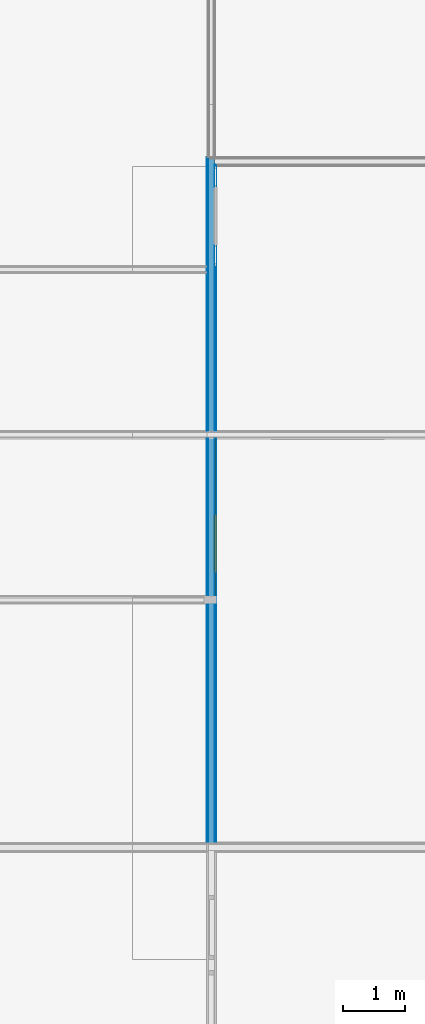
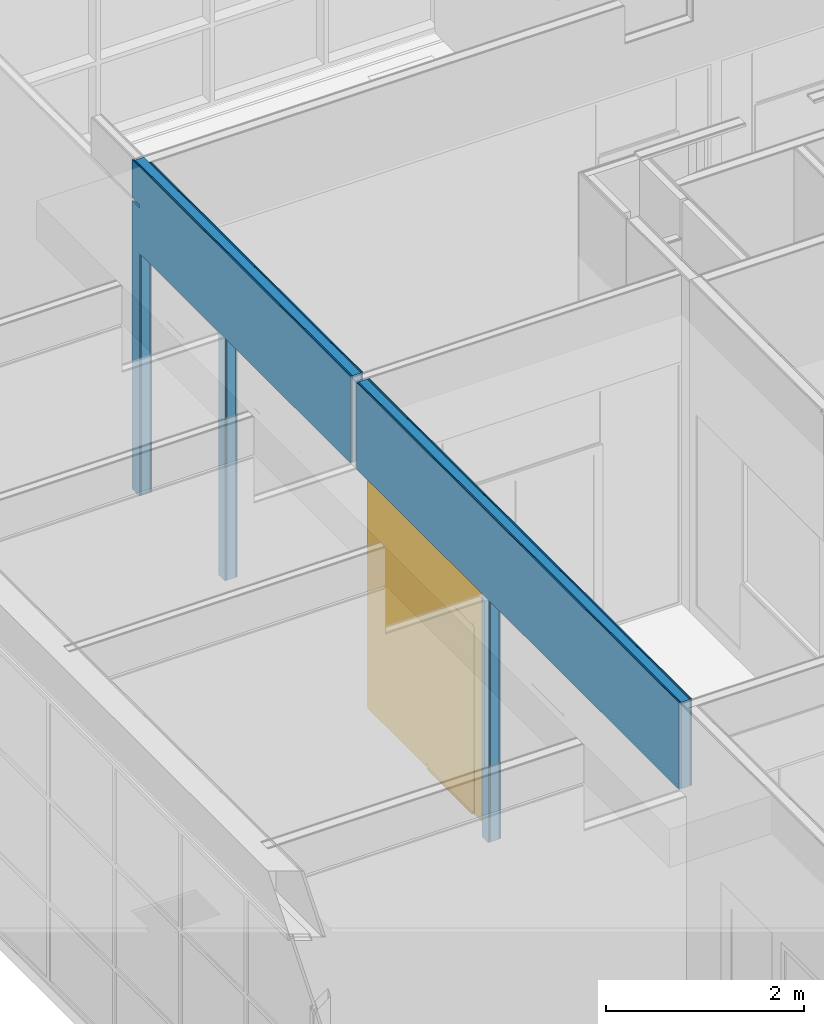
# One storey, part 37 of 109: 5 building element parts, 1 door, 4 openings, 1 element without a shape of its own.
"""IFC2X3 building model written with IfcOpenShell, lengths in millimetres."""

from ifc_helpers import new_model, entity, si_unit, converted_unit, derived_unit, money_unit, direction, frame, origin_with_axes, place, context, subcontext, project, spatial, open_shell, faceted_brep, surface_model, material, type_object, element, fill, aggregate, save


model = new_model("IFC2X3")

# Units and contexts
model_context = context("Model", 3, precision=0.01, world=origin_with_axes(), true_north=direction((0.0, 1.0)))
body_context = subcontext(model_context, "Body", "Model", "MODEL_VIEW")
ifc_project = project(units=[si_unit("LENGTHUNIT", "METRE", prefix="MILLI"), si_unit("AREAUNIT", "SQUARE_METRE"), si_unit("VOLUMEUNIT", "CUBIC_METRE"), converted_unit("PLANEANGLEUNIT", "DEGREE", entity("IfcPlaneAngleMeasure", 0.0174532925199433), si_unit("PLANEANGLEUNIT", "RADIAN"), dimensions=[0, 0, 0, 0, 0, 0, 0]), money_unit("EUR"), converted_unit("TIMEUNIT", "Year", entity("IfcTimeMeasure", 31557600.0), si_unit("TIMEUNIT", "SECOND"), dimensions=[0, 0, 1, 0, 0, 0, 0]), si_unit("MASSUNIT", "GRAM", prefix="KILO"), si_unit("THERMODYNAMICTEMPERATUREUNIT", "DEGREE_CELSIUS"), si_unit("LUMINOUSINTENSITYUNIT", "LUMEN"), si_unit("ENERGYUNIT", "JOULE", prefix="MEGA"), derived_unit("THERMALCONDUCTANCEUNIT", [(si_unit("POWERUNIT", "WATT"), 1), (si_unit("LENGTHUNIT", "METRE"), -1), (si_unit("THERMODYNAMICTEMPERATUREUNIT", "KELVIN"), -1)]), derived_unit("SPECIFICHEATCAPACITYUNIT", [(si_unit("ENERGYUNIT", "JOULE"), 1), (si_unit("MASSUNIT", "GRAM", prefix="KILO"), -1), (si_unit("THERMODYNAMICTEMPERATUREUNIT", "KELVIN"), -1)]), derived_unit("MASSDENSITYUNIT", [(si_unit("MASSUNIT", "GRAM", prefix="KILO"), 1), (si_unit("VOLUMEUNIT", "CUBIC_METRE"), -1)])], contexts=[model_context])

# Site, building, storey
site_placement = place(None, origin_with_axes())
site = spatial("IfcSite", under=ifc_project, at=site_placement, Name="<site naam>", CompositionType="ELEMENT")
building_placement = place(site_placement, origin_with_axes())
building = spatial("IfcBuilding", under=site, at=building_placement, Name="<Naam gebouw>", CompositionType="ELEMENT")
storey_placement = place(building_placement, origin_with_axes())
storey = spatial("IfcBuildingStorey", under=building, at=storey_placement, Name="00 Begane grond", CompositionType="ELEMENT", Elevation=0.0)

# Door
door_style = type_object("IfcDoorStyle", Name="D1 bl zl2 27", ConstructionType="NOTDEFINED", OperationType="USERDEFINED", ParameterTakesPrecedence=False, Sizeable=False)
wall_placement = place(storey_placement, frame((-3999.999999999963, 8075.000000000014, 0.0), z_axis=(0.0, 0.0, 1.0), x_axis=(0.0, 1.0, 0.0)))
opening_1_placement = place(wall_placement, frame((5258.333333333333, 0.0, 0.0), z_axis=(0.0, 0.0, 1.0), x_axis=(1.0, 0.0, 0.0)))
door_placement = place(opening_1_placement, frame((1270.833333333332, 0.0, 0.0), z_axis=(0.0, 0.0, 1.0), x_axis=(-1.0, 0.0, 0.0)))
door = element("IfcDoor", 1, at=door_placement, inside=storey, type_object=door_style, Name="22_BI-F-02 sp_305", ObjectType="DOOR", OverallHeight=3000.0, OverallWidth=2541.67, context=body_context, shape_type="SurfaceModel", body=[
    faceted_brep([(1224.666666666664, 35.00000000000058, 0.0), (1224.666666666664, 35.00000000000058, 12.0), (1241.666666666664, 35.00000000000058, 12.0), (1241.666666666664, 35.00000000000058, 0.0), (2158.666666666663, 35.00000000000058, 0.0), (2158.666666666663, 35.00000000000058, 12.0), (2141.666666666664, 35.00000000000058, 12.0), (2141.666666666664, 55.0000000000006, 12.0), (1241.666666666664, 55.0000000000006, 12.0), (1241.666666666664, 55.0000000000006, 0.0), (2141.666666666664, 55.0000000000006, 0.0), (2141.666666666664, 35.00000000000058, 0.0)], [[[0, 1, 2, 3]], [[4, 5, 1, 0]], [[1, 5, 6, 7, 8, 2]], [[3, 2, 8, 9]], [[0, 3, 9, 10, 11, 4]], [[11, 6, 5, 4]], [[10, 7, 6, 11]], [[9, 8, 7, 10]]]),
    faceted_brep([(0.0, 75.00000000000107, 0.0), (33.00000000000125, 75.00000000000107, 0.0), (33.00000000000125, 55.00000000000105, 0.0), (0.0, 55.00000000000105, 0.0), (0.0, 75.00000000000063, 2967.0), (33.00000000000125, 75.00000000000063, 2967.0), (33.00000000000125, 75.00000000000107, 33.0), (33.00000000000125, 55.00000000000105, 33.0), (33.00000000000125, 55.0000000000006, 2967.0), (0.0, 55.0000000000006, 2967.0)], [[[0, 1, 2, 3]], [[0, 4, 5, 6, 1]], [[1, 6, 7, 2]], [[3, 2, 7, 8, 9]], [[4, 0, 3, 9]], [[5, 4, 9, 8]], [[6, 5, 8, 7]]]),
    faceted_brep([(1224.666666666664, 55.0000000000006, 0.0), (1224.666666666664, 55.0000000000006, 2317.0), (1241.666666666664, 55.0000000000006, 2317.0), (1241.666666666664, 55.0000000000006, 2333.0), (1241.666666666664, 55.0000000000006, 2967.0), (1199.666666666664, 55.0000000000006, 2967.0), (1199.666666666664, 55.0000000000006, 32.99999999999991), (1199.666666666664, 55.0000000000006, 0.0), (1224.666666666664, 75.00000000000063, 0.0), (1224.666666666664, 75.00000000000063, 2317.0), (1241.666666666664, 75.00000000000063, 2317.0), (1241.666666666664, 75.00000000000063, 2333.0), (1241.666666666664, 75.00000000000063, 2967.0), (1199.666666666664, 75.00000000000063, 2967.0), (1199.666666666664, 75.00000000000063, 32.99999999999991), (1199.666666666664, 75.00000000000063, 0.0)], [[[0, 1, 2, 3, 4, 5, 6, 7]], [[1, 0, 8, 9]], [[10, 2, 1, 9]], [[2, 10, 11, 3]], [[12, 4, 3, 11]], [[13, 5, 4, 12]], [[14, 6, 5, 13]], [[15, 7, 6, 14]], [[8, 0, 7, 15]], [[9, 8, 15, 14, 13, 12, 11, 10]]]),
    faceted_brep([(33.00000000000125, 75.00000000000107, 33.0), (33.00000000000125, 75.00000000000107, 0.0), (33.00000000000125, 55.00000000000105, 0.0), (33.00000000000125, 55.00000000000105, 33.0), (1199.666666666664, 75.00000000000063, 33.0), (1199.666666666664, 75.00000000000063, 0.0), (1199.666666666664, 55.0000000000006, 0.0), (1199.666666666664, 55.0000000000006, 33.0)], [[[0, 1, 2, 3]], [[0, 4, 5, 1]], [[1, 5, 6, 2]], [[3, 2, 6, 7]], [[4, 0, 3, 7]], [[5, 4, 7, 6]]]),
    faceted_brep([(2541.666666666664, 75.00000000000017, 0.0), (2541.666666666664, 75.00000000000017, 2967.0), (2541.666666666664, 55.00000000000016, 2967.0), (2541.666666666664, 55.0000000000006, 0.0), (2508.666666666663, 75.00000000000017, 0.0), (2508.666666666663, 75.00000000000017, 33.0), (2508.666666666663, 75.00000000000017, 2967.0), (2508.666666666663, 55.00000000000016, 2967.0), (2508.666666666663, 55.0000000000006, 33.0), (2508.666666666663, 55.0000000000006, 0.0)], [[[0, 1, 2, 3]], [[0, 4, 5, 6, 1]], [[1, 6, 7, 2]], [[3, 2, 7, 8, 9]], [[4, 0, 3, 9]], [[5, 4, 9, 8]], [[6, 5, 8, 7]]]),
    faceted_brep([(2158.666666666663, 55.00000000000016, 2317.0), (2158.666666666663, 55.0000000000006, 0.0), (2183.666666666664, 55.0000000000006, 0.0), (2183.666666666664, 55.0000000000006, 32.99999999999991), (2183.666666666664, 55.00000000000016, 2967.0), (2141.666666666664, 55.00000000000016, 2967.0), (2141.666666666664, 55.00000000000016, 2333.0), (2141.666666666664, 55.00000000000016, 2317.0), (2158.666666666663, 75.00000000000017, 2317.0), (2158.666666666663, 75.00000000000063, 0.0), (2183.666666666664, 75.00000000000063, 0.0), (2183.666666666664, 75.00000000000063, 32.99999999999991), (2183.666666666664, 75.00000000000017, 2967.0), (2141.666666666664, 75.00000000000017, 2967.0), (2141.666666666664, 75.00000000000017, 2333.0), (2141.666666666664, 75.00000000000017, 2317.0)], [[[0, 1, 2, 3, 4, 5, 6, 7]], [[1, 0, 8, 9]], [[1, 9, 10, 2]], [[11, 3, 2, 10]], [[12, 4, 3, 11]], [[13, 5, 4, 12]], [[14, 6, 5, 13]], [[15, 7, 6, 14]], [[0, 7, 15, 8]], [[8, 15, 14, 13, 12, 11, 10, 9]]]),
    faceted_brep([(2183.666666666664, 75.00000000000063, 33.0), (2183.666666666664, 75.00000000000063, 0.0), (2183.666666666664, 55.0000000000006, 0.0), (2183.666666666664, 55.0000000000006, 33.0), (2508.666666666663, 75.00000000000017, 33.0), (2508.666666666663, 75.00000000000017, 0.0), (2508.666666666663, 55.0000000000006, 0.0), (2508.666666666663, 55.0000000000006, 33.0)], [[[0, 1, 2, 3]], [[0, 4, 5, 1]], [[1, 5, 6, 2]], [[3, 2, 6, 7]], [[4, 0, 3, 7]], [[5, 4, 7, 6]]]),
    faceted_brep([(0.0, 75.00000000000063, 3000.0), (0.0, 75.00000000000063, 2967.0), (0.0, 55.0000000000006, 2967.0), (0.0, 55.0000000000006, 3000.0), (2541.666666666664, 75.00000000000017, 3000.0), (2541.666666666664, 75.00000000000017, 2967.0), (2508.666666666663, 75.00000000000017, 2967.0), (2183.666666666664, 75.00000000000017, 2967.0), (2141.666666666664, 75.00000000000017, 2967.0), (1241.666666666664, 75.00000000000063, 2967.0), (1199.666666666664, 75.00000000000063, 2967.0), (33.00000000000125, 75.00000000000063, 2967.0), (33.00000000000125, 55.0000000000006, 2967.0), (1199.666666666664, 55.0000000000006, 2967.0), (1241.666666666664, 55.0000000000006, 2967.0), (2141.666666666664, 55.00000000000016, 2967.0), (2183.666666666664, 55.00000000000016, 2967.0), (2508.666666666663, 55.00000000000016, 2967.0), (2541.666666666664, 55.00000000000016, 2967.0), (2541.666666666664, 55.00000000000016, 3000.0)], [[[0, 1, 2, 3]], [[0, 4, 5, 6, 7, 8, 9, 10, 11, 1]], [[1, 11, 12, 2]], [[3, 2, 12, 13, 14, 15, 16, 17, 18, 19]], [[4, 0, 3, 19]], [[5, 4, 19, 18]], [[6, 5, 18, 17]], [[7, 6, 17, 16]], [[8, 7, 16, 15]], [[9, 8, 15, 14]], [[10, 9, 14, 13]], [[11, 10, 13, 12]]]),
    faceted_brep([(1241.666666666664, 55.0000000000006, 2317.0), (2141.666666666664, 55.00000000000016, 2317.0), (2141.666666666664, 55.00000000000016, 2333.0), (1241.666666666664, 55.0000000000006, 2333.0), (2141.666666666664, 75.00000000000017, 2317.0), (1241.666666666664, 75.00000000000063, 2317.0), (2141.666666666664, 75.00000000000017, 2333.0), (1241.666666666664, 75.00000000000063, 2333.0)], [[[0, 1, 2, 3]], [[4, 1, 0, 5]], [[1, 4, 6, 2]], [[7, 3, 2, 6]], [[5, 0, 3, 7]], [[4, 5, 7, 6]]]),
    faceted_brep([(2158.666666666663, 93.00000000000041, 0.0), (2158.666666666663, 53.00000000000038, 0.0), (1224.666666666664, 53.00000000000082, 0.0), (1224.666666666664, 93.00000000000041, 0.0), (2158.666666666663, 92.99999999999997, 2317.0), (2158.666666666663, 53.00000000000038, 2317.0), (1224.666666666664, 53.00000000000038, 2317.0), (1224.666666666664, 93.00000000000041, 2317.0)], [[[0, 1, 2, 3]], [[4, 5, 1, 0]], [[1, 5, 6, 2]], [[3, 2, 6, 7]], [[0, 3, 7, 4]], [[7, 6, 5, 4]]]),
    surface_model("IfcShellBasedSurfaceModel", [(1241.666666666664, 49.00000000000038, 2333.0), (2141.666666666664, 49.00000000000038, 2333.0), (2141.666666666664, 49.00000000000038, 2967.0), (1241.666666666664, 49.00000000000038, 2967.0)], [open_shell([[[0, 1, 2, 3]]])]),
    surface_model("IfcShellBasedSurfaceModel", [(1241.666666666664, 61.00000000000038, 2333.0), (1241.666666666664, 61.00000000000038, 2967.0), (2141.666666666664, 61.00000000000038, 2967.0), (2141.666666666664, 61.00000000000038, 2333.0)], [open_shell([[[0, 1, 2, 3]]])]),
    surface_model("IfcShellBasedSurfaceModel", [(33.00000000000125, 49.00000000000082, 33.0), (1199.666666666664, 49.00000000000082, 33.0), (1199.666666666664, 49.00000000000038, 2967.0), (33.00000000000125, 49.00000000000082, 2967.0)], [open_shell([[[0, 1, 2, 3]]])]),
    surface_model("IfcShellBasedSurfaceModel", [(33.00000000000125, 61.00000000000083, 33.0), (33.00000000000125, 61.00000000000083, 2967.0), (1199.666666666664, 61.00000000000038, 2967.0), (1199.666666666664, 61.00000000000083, 33.0)], [open_shell([[[0, 1, 2, 3]]])]),
    surface_model("IfcShellBasedSurfaceModel", [(2183.666666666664, 49.00000000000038, 33.0), (2508.666666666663, 49.00000000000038, 33.0), (2508.666666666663, 49.00000000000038, 2967.0), (2183.666666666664, 49.00000000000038, 2967.0)], [open_shell([[[0, 1, 2, 3]]])]),
    surface_model("IfcShellBasedSurfaceModel", [(2183.666666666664, 61.00000000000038, 33.0), (2183.666666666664, 61.00000000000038, 2967.0), (2508.666666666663, 61.00000000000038, 2967.0), (2508.666666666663, 61.00000000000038, 33.0)], [open_shell([[[0, 1, 2, 3]]])]),
])

# Wall, opening
wall_type = type_object("IfcWallType", Name="MS-01 GF 150 ECO DGS/2.100.2.A 150", PredefinedType="NOTDEFINED")
wall = element("IfcWall", 2, at=wall_placement, inside=storey, type_object=wall_type, Name="22_Binnenwand_MS-01")
opening_1 = element("IfcOpeningElement", 3, at=opening_1_placement, cuts=wall, Name="22_BI-F-02 sp_305", context=body_context, shape_type="Brep", body=[
    faceted_brep([(1270.833333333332, 76.00000000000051, 3000.0), (1270.833333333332, 76.00000000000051, 0.0), (-1270.833333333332, 76.00000000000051, 0.0), (-1270.833333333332, 76.00000000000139, 3000.0), (1270.833333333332, -76.00000000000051, 3000.0), (1270.833333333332, -76.00000000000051, 0.0), (-1270.833333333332, -76.00000000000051, 0.0), (-1270.833333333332, -75.99999999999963, 3000.0)], [[[0, 1, 2, 3]], [[4, 5, 1, 0]], [[5, 6, 2, 1]], [[6, 7, 3, 2]], [[7, 4, 0, 3]], [[6, 5, 4, 7]]]),
])

fill(opening_1, door)

# Opening
opening_2_placement = place(wall_placement, frame((7925.000000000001, 0.0, 0.0), z_axis=(0.0, 0.0, 1.0), x_axis=(1.0, 0.0, 0.0)))
element("IfcOpeningElement", 4, at=opening_2_placement, cuts=wall, Name="22_BI-F-02_305", context=body_context, shape_type="Brep", body=[
    faceted_brep([(1270.833333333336, 76.00000000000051, 3000.0), (1270.833333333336, 76.00000000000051, 0.0), (-1270.833333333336, 76.00000000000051, 0.0), (-1270.833333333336, 76.00000000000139, 3000.0), (1270.833333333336, -76.00000000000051, 3000.0), (1270.833333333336, -76.00000000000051, 0.0), (-1270.833333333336, -76.00000000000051, 0.0), (-1270.833333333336, -75.99999999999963, 3000.0)], [[[0, 1, 2, 3]], [[4, 5, 1, 0]], [[5, 6, 2, 1]], [[6, 7, 3, 2]], [[7, 4, 0, 3]], [[6, 5, 4, 7]]]),
])

opening_3_placement = place(wall_placement, frame((1931.25, 0.0, 0.0), z_axis=(0.0, 0.0, 1.0), x_axis=(1.0, 0.0, 0.0)))
element("IfcOpeningElement", 5, at=opening_3_placement, cuts=wall, Name="22_BI-F-01_305", context=body_context, shape_type="Brep", body=[
    faceted_brep([(1931.25, 76.00000000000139, 3000.0), (1931.25, 76.00000000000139, 0.0), (-1931.25, 76.00000000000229, 0.0), (-1931.25, 76.00000000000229, 3000.0), (1931.25, -76.00000000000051, 3000.0), (1931.25, -76.00000000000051, 0.0), (-1931.25, -75.99999999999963, 0.0), (-1931.25, -75.99999999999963, 3000.0)], [[[0, 1, 2, 3]], [[4, 5, 1, 0]], [[5, 6, 2, 1]], [[6, 7, 3, 2]], [[7, 4, 0, 3]], [[6, 5, 4, 7]]]),
])

opening_4_placement = place(wall_placement, frame((10122.91666666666, 0.0, 0.0), z_axis=(0.0, 0.0, 1.0), x_axis=(1.0, 0.0, 0.0)))
element("IfcOpeningElement", 6, at=opening_4_placement, cuts=wall, Name="22_BI-F-03_305", context=body_context, shape_type="Brep", body=[
    faceted_brep([(802.0833333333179, 76.00000000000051, 3000.0), (802.0833333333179, 76.00000000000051, 0.0), (-802.0833333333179, 76.00000000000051, 0.0), (-802.0833333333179, 76.00000000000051, 3000.0), (802.0833333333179, -76.00000000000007, 3000.0), (802.0833333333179, -76.00000000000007, 0.0), (-802.0833333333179, -76.00000000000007, 0.0), (-802.0833333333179, -76.00000000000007, 3000.0)], [[[0, 1, 2, 3]], [[4, 5, 1, 0]], [[5, 6, 2, 1]], [[6, 7, 3, 2]], [[7, 4, 0, 3]], [[6, 5, 4, 7]]]),
])

# Building element part
ifc_material_1 = material(Name="gipsplaat")
building_element_part_1_placement = place(wall_placement, origin_with_axes())
building_element_part_1 = element("IfcBuildingElementPart", 7, at=building_element_part_1_placement, material=ifc_material_1, Name="gipsplaat", context=body_context, shape_type="Brep", body=[
    faceted_brep([(11062.49999999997, 49.99999999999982, 3560.0), (10925.0000001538, 49.99999999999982, 3560.0), (10925.0000001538, 49.99999999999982, 3600.0), (11062.49999999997, 49.99999999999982, 3600.0), (11062.49999999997, 49.99999999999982, 4070.0), (6654.166666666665, 49.99999999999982, 4070.0), (6654.166666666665, 49.99999999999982, 3.000000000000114), (9195.833333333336, 49.99999999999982, 3.000000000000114), (9195.833333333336, 49.99999999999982, 0.0), (9320.833333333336, 49.99999999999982, 0.0), (9320.833333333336, 49.99999999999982, 3.000000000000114), (10925.00004530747, 49.99999999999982, 3.000000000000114), (10925.00004530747, 49.99999999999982, 0.0), (11062.49999999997, 49.99999999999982, 0.0), (10925.00000013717, 62.5, 3560.0), (11062.49999999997, 62.5, 3560.0), (10925.00000013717, 62.5, 3600.0), (11062.49999999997, 62.5, 3600.0), (11062.49999999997, 62.5, 4070.0), (6654.166666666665, 62.5, 4070.0), (6654.166666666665, 62.5, 3.000000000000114), (9195.833333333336, 62.5, 3.000000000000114), (9195.833333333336, 62.5, 0.0), (9320.833333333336, 62.5, 0.0), (9320.833333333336, 62.5, 3.000000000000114), (10925.00004530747, 62.5, 3.000000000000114), (10925.00004530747, 62.5, 0.0), (11062.49999999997, 62.5, 0.0)], [[[0, 1, 2, 3, 4, 5, 6, 7, 8, 9, 10, 11, 12, 13]], [[14, 1, 0, 15]], [[16, 2, 1, 14]], [[16, 17, 3, 2]], [[4, 3, 17, 18]], [[5, 4, 18, 19]], [[19, 20, 6, 5]], [[21, 7, 6, 20]], [[22, 8, 7, 21]], [[22, 23, 9, 8]], [[24, 10, 9, 23]], [[25, 11, 10, 24]], [[26, 12, 11, 25]], [[13, 12, 26, 27]], [[27, 15, 0, 13]], [[16, 14, 15, 27, 26, 25, 24, 23, 22, 21, 20, 19, 18, 17]]]),
    faceted_brep([(0.0, 49.99999999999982, 3.000000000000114), (3862.500000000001, 49.99999999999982, 3.000000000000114), (3862.500000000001, 49.99999999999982, 0.0), (3987.500000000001, 49.99999999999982, 0.0), (3987.500000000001, 49.99999999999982, 3.000000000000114), (6529.166666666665, 49.99999999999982, 3.000000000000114), (6529.166666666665, 49.99999999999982, 4070.0), (0.0, 49.99999999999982, 4070.0), (3862.500000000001, 62.5, 3.000000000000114), (0.0, 62.5, 3.000000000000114), (3862.500000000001, 62.5, 0.0), (3987.500000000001, 62.5, 0.0), (3987.500000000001, 62.5, 3.000000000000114), (6529.166666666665, 62.5, 3.000000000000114), (6529.166666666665, 62.5, 4070.0), (0.0, 62.5, 4070.0)], [[[0, 1, 2, 3, 4, 5, 6, 7]], [[8, 1, 0, 9]], [[10, 2, 1, 8]], [[3, 2, 10, 11]], [[12, 4, 3, 11]], [[12, 13, 5, 4]], [[6, 5, 13, 14]], [[7, 6, 14, 15]], [[15, 9, 0, 7]], [[10, 8, 9, 15, 14, 13, 12, 11]]]),
])

building_element_part_2_placement = place(wall_placement, origin_with_axes())
building_element_part_2 = element("IfcBuildingElementPart", 8, at=building_element_part_2_placement, material=ifc_material_1, Name="gipsplaat", context=body_context, shape_type="Brep", body=[
    faceted_brep([(10949.99999999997, -62.5, 3560.0), (10925.00000030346, -62.5, 3560.0), (10925.00000030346, -62.5, 3600.0), (10949.99999999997, -62.5, 3600.0), (10949.99999999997, -62.5, 4070.0), (6654.166666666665, -62.5, 4070.0), (6654.166666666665, -62.5, 3.000000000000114), (9195.833333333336, -62.5, 3.000000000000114), (9195.833333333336, -62.5, 0.0), (9320.833333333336, -62.5, 0.0), (9320.833333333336, -62.5, 3.000000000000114), (10925.00004530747, -62.5, 3.000000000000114), (10925.00004530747, -62.5, 0.0), (10949.99999999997, -62.5, 0.0), (10925.00000028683, -49.99999999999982, 3560.0), (10949.99999999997, -49.99999999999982, 3560.0), (10925.00000028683, -49.99999999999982, 3600.0), (10949.99999999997, -49.99999999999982, 3600.0), (10949.99999999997, -49.99999999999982, 4070.0), (6654.166666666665, -49.99999999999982, 4070.0), (6654.166666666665, -49.99999999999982, 3.000000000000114), (9195.833333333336, -49.99999999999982, 3.000000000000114), (9195.833333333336, -49.99999999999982, 0.0), (9320.833333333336, -49.99999999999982, 0.0), (9320.833333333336, -49.99999999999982, 3.000000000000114), (10925.00004530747, -49.99999999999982, 3.000000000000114), (10925.00004530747, -49.99999999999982, 0.0), (10949.99999999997, -49.99999999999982, 0.0)], [[[0, 1, 2, 3, 4, 5, 6, 7, 8, 9, 10, 11, 12, 13]], [[14, 1, 0, 15]], [[16, 2, 1, 14]], [[16, 17, 3, 2]], [[4, 3, 17, 18]], [[5, 4, 18, 19]], [[19, 20, 6, 5]], [[21, 7, 6, 20]], [[22, 8, 7, 21]], [[22, 23, 9, 8]], [[24, 10, 9, 23]], [[25, 11, 10, 24]], [[26, 12, 11, 25]], [[13, 12, 26, 27]], [[27, 15, 0, 13]], [[16, 14, 15, 27, 26, 25, 24, 23, 22, 21, 20, 19, 18, 17]]]),
    faceted_brep([(0.0, -62.5, 3.000000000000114), (3862.500000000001, -62.5, 3.000000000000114), (3862.500000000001, -62.5, 0.0), (3987.500000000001, -62.5, 0.0), (3987.500000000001, -62.5, 3.000000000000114), (6529.166666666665, -62.5, 3.000000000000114), (6529.166666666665, -62.5, 4070.0), (0.0, -62.5, 4070.0), (3862.500000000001, -49.99999999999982, 3.000000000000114), (0.0, -49.99999999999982, 3.000000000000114), (3862.500000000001, -49.99999999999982, 0.0), (3987.500000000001, -49.99999999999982, 0.0), (3987.500000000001, -49.99999999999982, 3.000000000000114), (6529.166666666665, -49.99999999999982, 3.000000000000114), (6529.166666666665, -49.99999999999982, 4070.0), (0.0, -49.99999999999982, 4070.0)], [[[0, 1, 2, 3, 4, 5, 6, 7]], [[8, 1, 0, 9]], [[10, 2, 1, 8]], [[3, 2, 10, 11]], [[12, 4, 3, 11]], [[12, 13, 5, 4]], [[6, 5, 13, 14]], [[7, 6, 14, 15]], [[15, 9, 0, 7]], [[10, 8, 9, 15, 14, 13, 12, 11]]]),
])

ifc_material_2 = material(Name="isolatie_steenwol LSW")
building_element_part_3_placement = place(wall_placement, origin_with_axes())
building_element_part_3 = element("IfcBuildingElementPart", 9, at=building_element_part_3_placement, material=ifc_material_2, Name="isolatie_steenwol LSW", context=body_context, shape_type="Brep", body=[
    faceted_brep([(11049.99999999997, -49.99999999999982, 3560.0), (10925.00000028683, -49.99999999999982, 3560.0), (10925.00000028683, -49.99999999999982, 3600.0), (11049.99999999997, -49.99999999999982, 3600.0), (11049.99999999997, -49.99999999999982, 4070.0), (6654.166666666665, -49.99999999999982, 4070.0), (6654.166666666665, -49.99999999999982, 3.000000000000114), (9195.833333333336, -49.99999999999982, 3.000000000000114), (9195.833333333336, -49.99999999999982, 0.0), (9320.833333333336, -49.99999999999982, 0.0), (9320.833333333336, -49.99999999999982, 3.000000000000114), (10925.00004530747, -49.99999999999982, 3.000000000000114), (10925.00004530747, -49.99999999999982, 0.0), (11049.99999999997, -49.99999999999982, 0.0), (10925.0000001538, 49.99999999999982, 3560.0), (11049.99999999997, 49.99999999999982, 3560.0), (10925.0000001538, 49.99999999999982, 3600.0), (11049.99999999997, 49.99999999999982, 3600.0), (11049.99999999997, 49.99999999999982, 4070.0), (6654.166666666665, 49.99999999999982, 4070.0), (6654.166666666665, 49.99999999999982, 3.000000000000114), (9195.833333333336, 49.99999999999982, 3.000000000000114), (9195.833333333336, 49.99999999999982, 0.0), (9320.833333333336, 49.99999999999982, 0.0), (9320.833333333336, 49.99999999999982, 3.000000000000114), (10925.00004530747, 49.99999999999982, 3.000000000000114), (10925.00004530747, 49.99999999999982, 0.0), (11049.99999999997, 49.99999999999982, 0.0)], [[[0, 1, 2, 3, 4, 5, 6, 7, 8, 9, 10, 11, 12, 13]], [[14, 1, 0, 15]], [[16, 2, 1, 14]], [[16, 17, 3, 2]], [[4, 3, 17, 18]], [[5, 4, 18, 19]], [[19, 20, 6, 5]], [[21, 7, 6, 20]], [[22, 8, 7, 21]], [[22, 23, 9, 8]], [[24, 10, 9, 23]], [[25, 11, 10, 24]], [[26, 12, 11, 25]], [[13, 12, 26, 27]], [[27, 15, 0, 13]], [[16, 14, 15, 27, 26, 25, 24, 23, 22, 21, 20, 19, 18, 17]]]),
    faceted_brep([(0.0, -49.99999999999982, 3.000000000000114), (3862.500000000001, -49.99999999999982, 3.000000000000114), (3862.500000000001, -49.99999999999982, 0.0), (3987.500000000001, -49.99999999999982, 0.0), (3987.500000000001, -49.99999999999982, 3.000000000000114), (6529.166666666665, -49.99999999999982, 3.000000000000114), (6529.166666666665, -49.99999999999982, 4070.0), (0.0, -49.99999999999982, 4070.0), (3862.500000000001, 49.99999999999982, 3.000000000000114), (0.0, 49.99999999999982, 3.000000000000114), (3862.500000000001, 49.99999999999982, 0.0), (3987.500000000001, 49.99999999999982, 0.0), (3987.500000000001, 49.99999999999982, 3.000000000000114), (6529.166666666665, 49.99999999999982, 3.000000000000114), (6529.166666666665, 49.99999999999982, 4070.0), (0.0, 49.99999999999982, 4070.0)], [[[0, 1, 2, 3, 4, 5, 6, 7]], [[8, 1, 0, 9]], [[10, 2, 1, 8]], [[3, 2, 10, 11]], [[12, 4, 3, 11]], [[12, 13, 5, 4]], [[6, 5, 13, 14]], [[7, 6, 14, 15]], [[15, 9, 0, 7]], [[10, 8, 9, 15, 14, 13, 12, 11]]]),
])

building_element_part_4_placement = place(wall_placement, origin_with_axes())
building_element_part_4 = element("IfcBuildingElementPart", 10, at=building_element_part_4_placement, material=ifc_material_1, Name="gipsplaat", context=body_context, shape_type="Brep", body=[
    faceted_brep([(10937.49999999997, -75.00000000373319, 3560.0), (10925.00000032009, -75.00000002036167, 3560.0), (10925.00000032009, -75.00000002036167, 3600.0), (10937.49999999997, -75.00000000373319, 3600.0), (10937.49999999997, -74.99999999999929, 4070.0), (6654.166666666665, -74.99999999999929, 4070.0), (6654.166666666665, -74.99999999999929, 3.000000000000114), (9195.833333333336, -74.99999999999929, 3.000000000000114), (9195.833333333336, -74.99999999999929, 0.0), (9320.833333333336, -75.00000535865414, 0.0), (9320.833333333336, -75.00000535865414, 3.000000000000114), (10925.00004530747, -75.00000535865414, 3.000000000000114), (10925.00004530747, -75.00000535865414, 0.0), (10925.01546946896, -75.00000000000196, 0.0), (10925.01546946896, -74.99999999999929, 3.000000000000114), (10937.49999999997, -75.00000000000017, 3.000000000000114), (10925.00000030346, -62.5, 3560.0), (10937.49999999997, -62.5, 3560.0), (10925.00000030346, -62.5, 3600.0), (10937.49999999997, -62.5, 3600.0), (10937.49999999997, -62.5, 4070.0), (6654.166666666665, -62.5, 4070.0), (6654.166666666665, -62.5, 3.000000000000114), (9195.833333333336, -62.5, 3.000000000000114), (9195.833333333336, -62.5, 0.0), (9320.833333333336, -62.50000000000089, 0.0), (9320.833333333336, -62.5, 3.000000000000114), (10925.00004530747, -62.5, 3.000000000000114), (10925.00004530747, -62.50000000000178, 0.0), (10925.01549908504, -62.50000000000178, 0.0), (10925.01549908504, -62.50000000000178, 3.000000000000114), (10937.49999999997, -62.50000000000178, 3.000000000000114)], [[[0, 1, 2, 3, 4, 5, 6, 7, 8, 9, 10, 11, 12, 13, 14, 15]], [[16, 1, 0, 17]], [[18, 2, 1, 16]], [[18, 19, 3, 2]], [[4, 3, 19, 20]], [[5, 4, 20, 21]], [[21, 22, 6, 5]], [[23, 7, 6, 22]], [[24, 8, 7, 23]], [[24, 25, 9, 8]], [[26, 10, 9, 25]], [[27, 11, 10, 26]], [[28, 12, 11, 27]], [[13, 12, 28, 29]], [[30, 14, 13, 29]], [[30, 31, 15, 14]], [[31, 17, 0, 15]], [[18, 16, 17, 31, 30, 29, 28, 27, 26, 25, 24, 23, 22, 21, 20, 19]]]),
    faceted_brep([(0.0, -74.99999999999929, 3.000000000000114), (3862.500000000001, -74.99999999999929, 3.000000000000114), (3862.500000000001, -74.99999999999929, 0.0), (3987.500000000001, -74.99999999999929, 0.0), (3987.500000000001, -74.99999999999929, 3.000000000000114), (6529.166666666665, -74.99999999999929, 3.000000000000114), (6529.166666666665, -74.99999999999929, 4070.0), (0.0, -74.99999999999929, 4070.0), (3862.500000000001, -62.5, 3.000000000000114), (0.0, -62.5, 3.000000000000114), (3862.500000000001, -62.5, 0.0), (3987.500000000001, -62.5, 0.0), (3987.500000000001, -62.5, 3.000000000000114), (6529.166666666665, -62.5, 3.000000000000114), (6529.166666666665, -62.5, 4070.0), (0.0, -62.5, 4070.0)], [[[0, 1, 2, 3, 4, 5, 6, 7]], [[8, 1, 0, 9]], [[10, 2, 1, 8]], [[3, 2, 10, 11]], [[12, 4, 3, 11]], [[12, 13, 5, 4]], [[6, 5, 13, 14]], [[7, 6, 14, 15]], [[15, 9, 0, 7]], [[10, 8, 9, 15, 14, 13, 12, 11]]]),
])

building_element_part_5_placement = place(wall_placement, origin_with_axes())
building_element_part_5 = element("IfcBuildingElementPart", 11, at=building_element_part_5_placement, material=ifc_material_1, Name="gipsplaat", context=body_context, shape_type="Brep", body=[
    faceted_brep([(11074.99999999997, 62.5, 3560.0), (10925.00000013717, 62.5, 3560.0), (10925.00000013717, 62.5, 3600.0), (11074.99999999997, 62.5, 3600.0), (11074.99999999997, 62.5, 4070.0), (6654.166666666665, 62.5, 4070.0), (6654.166666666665, 62.5, 3.000000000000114), (9195.833333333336, 62.5, 3.000000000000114), (9195.833333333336, 62.5, 0.0), (9320.833333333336, 62.5, 0.0), (9320.833333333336, 62.5, 3.000000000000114), (10925.00004530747, 62.5, 3.000000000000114), (10925.00004530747, 62.5, 0.0), (11074.99999999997, 62.5, 0.0), (10925.00000012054, 75.00000000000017, 3560.0), (11074.99999999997, 75.00000000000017, 3560.0), (10925.00000012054, 75.00000000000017, 3600.0), (11074.99999999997, 75.00000000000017, 3600.0), (11074.99999999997, 75.00000000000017, 4070.0), (6654.166666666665, 75.00000000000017, 4070.0), (6654.166666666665, 75.00000000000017, 3.000000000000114), (9195.833333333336, 75.00000000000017, 3.000000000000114), (9195.833333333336, 75.00000000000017, 0.0), (9320.833333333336, 75.00000000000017, 0.0), (9320.833333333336, 75.00000000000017, 3.000000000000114), (10925.00004530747, 75.00000000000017, 3.000000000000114), (10925.00004530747, 75.00000000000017, 0.0), (11074.99999999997, 75.00000000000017, 0.0)], [[[0, 1, 2, 3, 4, 5, 6, 7, 8, 9, 10, 11, 12, 13]], [[14, 1, 0, 15]], [[16, 2, 1, 14]], [[16, 17, 3, 2]], [[4, 3, 17, 18]], [[19, 5, 4, 18]], [[19, 20, 6, 5]], [[21, 7, 6, 20]], [[22, 8, 7, 21]], [[22, 23, 9, 8]], [[24, 10, 9, 23]], [[25, 11, 10, 24]], [[26, 12, 11, 25]], [[13, 12, 26, 27]], [[27, 15, 0, 13]], [[16, 14, 15, 27, 26, 25, 24, 23, 22, 21, 20, 19, 18, 17]]]),
    faceted_brep([(0.0, 62.5, 3.000000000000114), (3862.500000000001, 62.5, 3.000000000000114), (3862.500000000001, 62.5, 0.0), (3987.500000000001, 62.5, 0.0), (3987.500000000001, 62.5, 3.000000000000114), (6529.166666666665, 62.5, 3.000000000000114), (6529.166666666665, 62.5, 4070.0), (0.0, 62.5, 4070.0), (3862.500000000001, 75.00000000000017, 3.000000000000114), (0.0, 75.00000000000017, 3.000000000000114), (3862.500000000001, 75.00000000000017, 0.0), (3987.500000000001, 75.00000000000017, 0.0), (3987.500000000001, 75.00000000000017, 3.000000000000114), (6529.166666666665, 75.00000000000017, 3.000000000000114), (6529.166666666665, 75.00000000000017, 4070.0), (0.0, 75.00000000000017, 4070.0)], [[[0, 1, 2, 3, 4, 5, 6, 7]], [[8, 1, 0, 9]], [[10, 2, 1, 8]], [[3, 2, 10, 11]], [[12, 4, 3, 11]], [[12, 13, 5, 4]], [[6, 5, 13, 14]], [[7, 6, 14, 15]], [[15, 9, 0, 7]], [[10, 8, 9, 15, 14, 13, 12, 11]]]),
])

aggregate(wall, [building_element_part_1, building_element_part_2, building_element_part_3, building_element_part_4, building_element_part_5])

save(model, "model.ifc")
